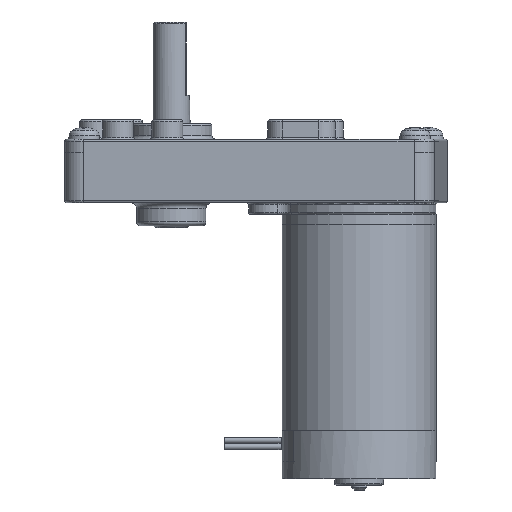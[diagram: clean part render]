
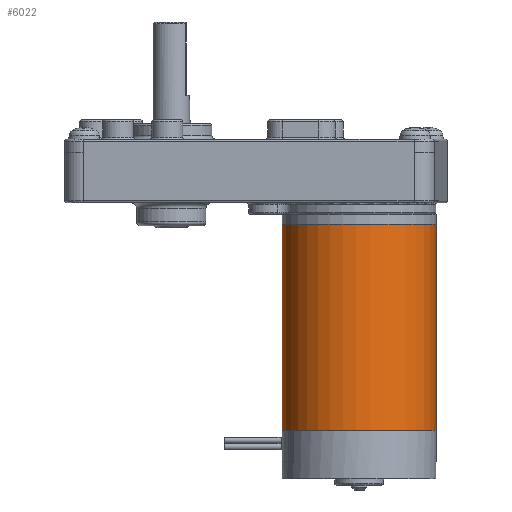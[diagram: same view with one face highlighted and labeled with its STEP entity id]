
A CAD part, left-side view. The second image highlights one B-rep face of the part: STEP entity #6022.
In plain terms, the highlighted cylindrical face has radius 20 mm (diameter 40 mm), a full revolution.
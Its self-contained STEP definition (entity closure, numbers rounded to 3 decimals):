
#1099=FACE_BOUND('',#2066,.T.);
#1476=FACE_OUTER_BOUND('',#2065,.T.);
#2065=EDGE_LOOP('',(#5230));
#2066=EDGE_LOOP('',(#5231));
#2573=CIRCLE('',#6827,20.);
#2574=CIRCLE('',#6828,20.);
#3087=VERTEX_POINT('',#11161);
#3088=VERTEX_POINT('',#11163);
#3828=EDGE_CURVE('',#3087,#3087,#2573,.T.);
#3829=EDGE_CURVE('',#3088,#3088,#2574,.T.);
#5230=ORIENTED_EDGE('',*,*,#3828,.T.);
#5231=ORIENTED_EDGE('',*,*,#3829,.F.);
#5672=CYLINDRICAL_SURFACE('',#6826,20.);
#6022=ADVANCED_FACE('',(#1476,#1099),#5672,.T.);
#6826=AXIS2_PLACEMENT_3D('',#11160,#8530,#8531);
#6827=AXIS2_PLACEMENT_3D('',#11162,#8532,#8533);
#6828=AXIS2_PLACEMENT_3D('',#11164,#8534,#8535);
#8530=DIRECTION('center_axis',(0.,0.,1.));
#8531=DIRECTION('ref_axis',(-1.,0.,0.));
#8532=DIRECTION('center_axis',(0.,0.,-1.));
#8533=DIRECTION('ref_axis',(-1.,0.,0.));
#8534=DIRECTION('center_axis',(0.,0.,-1.));
#8535=DIRECTION('ref_axis',(-1.,0.,0.));
#11160=CARTESIAN_POINT('Origin',(0.,0.,0.));
#11161=CARTESIAN_POINT('',(20.,0.,53.5));
#11162=CARTESIAN_POINT('Origin',(0.,0.,53.5));
#11163=CARTESIAN_POINT('',(20.,0.,0.));
#11164=CARTESIAN_POINT('Origin',(0.,0.,0.));
